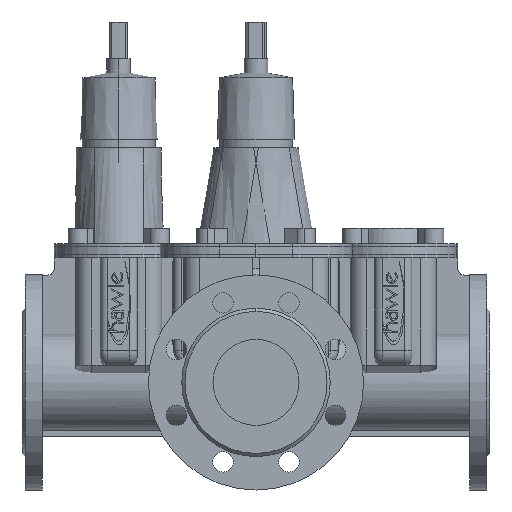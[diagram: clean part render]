
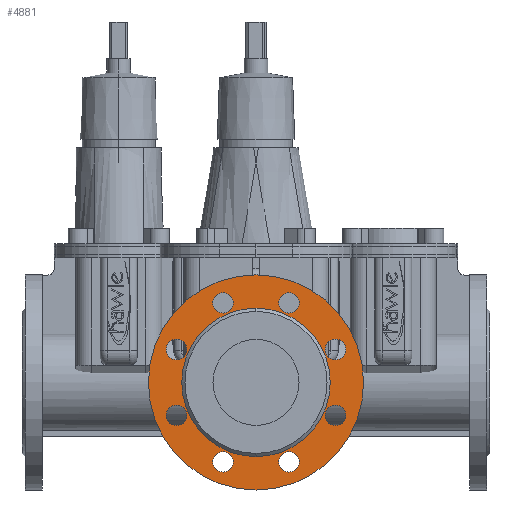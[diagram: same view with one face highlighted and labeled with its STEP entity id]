
A CAD part, left-side view. The second image highlights one B-rep face of the part: STEP entity #4881.
In plain terms, the highlighted planar face has unit normal (-1, 0, 0).
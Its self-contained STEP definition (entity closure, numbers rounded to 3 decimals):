
#4881=ADVANCED_FACE('',(#9717,#9718,#9719,#9720,#9721,#9722,#9723,#9724,#9725,#9726),#9727,.F.);
#9717=FACE_BOUND('',#16318,.T.);
#9718=FACE_BOUND('',#16319,.T.);
#9719=FACE_BOUND('',#16320,.T.);
#9720=FACE_BOUND('',#16321,.T.);
#9721=FACE_BOUND('',#16322,.T.);
#9722=FACE_BOUND('',#16323,.T.);
#9723=FACE_BOUND('',#16324,.T.);
#9724=FACE_BOUND('',#16325,.T.);
#9725=FACE_BOUND('',#16326,.T.);
#9726=FACE_OUTER_BOUND('',#16327,.T.);
#9727=PLANE('',#16328);
#16318=EDGE_LOOP('',(#25593,#25594));
#16319=EDGE_LOOP('',(#25595,#25596));
#16320=EDGE_LOOP('',(#25597,#25598));
#16321=EDGE_LOOP('',(#25599,#25600));
#16322=EDGE_LOOP('',(#25601,#25602));
#16323=EDGE_LOOP('',(#25603,#25604));
#16324=EDGE_LOOP('',(#25605,#25606));
#16325=EDGE_LOOP('',(#25607,#25608));
#16326=EDGE_LOOP('',(#25609,#25610));
#16327=EDGE_LOOP('',(#25611,#25612));
#16328=AXIS2_PLACEMENT_3D('',#25613,#25614,#25615);
#25593=ORIENTED_EDGE('',*,*,#36936,.T.);
#25594=ORIENTED_EDGE('',*,*,#36652,.T.);
#25595=ORIENTED_EDGE('',*,*,#36937,.T.);
#25596=ORIENTED_EDGE('',*,*,#34851,.T.);
#25597=ORIENTED_EDGE('',*,*,#34510,.T.);
#25598=ORIENTED_EDGE('',*,*,#36938,.T.);
#25599=ORIENTED_EDGE('',*,*,#34153,.T.);
#25600=ORIENTED_EDGE('',*,*,#36939,.T.);
#25601=ORIENTED_EDGE('',*,*,#35374,.T.);
#25602=ORIENTED_EDGE('',*,*,#36892,.T.);
#25603=ORIENTED_EDGE('',*,*,#36940,.T.);
#25604=ORIENTED_EDGE('',*,*,#34884,.T.);
#25605=ORIENTED_EDGE('',*,*,#36713,.T.);
#25606=ORIENTED_EDGE('',*,*,#36910,.T.);
#25607=ORIENTED_EDGE('',*,*,#35277,.T.);
#25608=ORIENTED_EDGE('',*,*,#36941,.T.);
#25609=ORIENTED_EDGE('',*,*,#35642,.T.);
#25610=ORIENTED_EDGE('',*,*,#35755,.T.);
#25611=ORIENTED_EDGE('',*,*,#36942,.F.);
#25612=ORIENTED_EDGE('',*,*,#36943,.F.);
#25613=CARTESIAN_POINT('',(3.0,0.0,0.));
#25614=DIRECTION('',(1.0,0.0,0.));
#25615=DIRECTION('',(0.,0.0,-1.0));
#34153=EDGE_CURVE('',#40010,#40014,#40016,.T.);
#34510=EDGE_CURVE('',#40636,#40640,#40642,.T.);
#34851=EDGE_CURVE('',#41224,#41222,#41225,.T.);
#34884=EDGE_CURVE('',#41280,#41278,#41281,.T.);
#35277=EDGE_CURVE('',#41932,#41936,#41938,.T.);
#35374=EDGE_CURVE('',#42093,#42097,#42099,.T.);
#35642=EDGE_CURVE('',#42526,#42530,#42532,.T.);
#35755=EDGE_CURVE('',#42530,#42526,#42707,.T.);
#36652=EDGE_CURVE('',#44060,#44058,#44061,.T.);
#36713=EDGE_CURVE('',#44150,#44154,#44156,.T.);
#36892=EDGE_CURVE('',#42097,#42093,#44404,.T.);
#36910=EDGE_CURVE('',#44154,#44150,#44428,.T.);
#36936=EDGE_CURVE('',#44058,#44060,#44465,.T.);
#36937=EDGE_CURVE('',#41222,#41224,#44466,.T.);
#36938=EDGE_CURVE('',#40640,#40636,#44467,.T.);
#36939=EDGE_CURVE('',#40014,#40010,#44468,.T.);
#36940=EDGE_CURVE('',#41278,#41280,#44469,.T.);
#36941=EDGE_CURVE('',#41936,#41932,#44470,.T.);
#36942=EDGE_CURVE('',#44471,#44472,#44473,.T.);
#36943=EDGE_CURVE('',#44472,#44471,#44474,.T.);
#40010=VERTEX_POINT('',#48252);
#40014=VERTEX_POINT('',#48257);
#40016=CIRCLE('',#48260,9.5);
#40636=VERTEX_POINT('',#49051);
#40640=VERTEX_POINT('',#49056);
#40642=CIRCLE('',#49059,9.5);
#41222=VERTEX_POINT('',#49806);
#41224=VERTEX_POINT('',#49809);
#41225=CIRCLE('',#49810,9.5);
#41278=VERTEX_POINT('',#49877);
#41280=VERTEX_POINT('',#49880);
#41281=CIRCLE('',#49881,9.5);
#41932=VERTEX_POINT('',#50728);
#41936=VERTEX_POINT('',#50733);
#41938=CIRCLE('',#50736,9.5);
#42093=VERTEX_POINT('',#50951);
#42097=VERTEX_POINT('',#50956);
#42099=CIRCLE('',#50959,9.5);
#42526=VERTEX_POINT('',#51512);
#42530=VERTEX_POINT('',#51517);
#42532=CIRCLE('',#51520,40.0);
#42707=CIRCLE('',#51753,40.0);
#44058=VERTEX_POINT('',#53498);
#44060=VERTEX_POINT('',#53501);
#44061=CIRCLE('',#53502,9.5);
#44150=VERTEX_POINT('',#53613);
#44154=VERTEX_POINT('',#53618);
#44156=CIRCLE('',#53621,9.5);
#44404=CIRCLE('',#53944,9.5);
#44428=CIRCLE('',#53972,9.5);
#44465=CIRCLE('',#54019,9.5);
#44466=CIRCLE('',#54020,9.5);
#44467=CIRCLE('',#54021,9.5);
#44468=CIRCLE('',#54022,9.5);
#44469=CIRCLE('',#54023,9.5);
#44470=CIRCLE('',#54024,9.5);
#44471=VERTEX_POINT('',#54025);
#44472=VERTEX_POINT('',#54026);
#44473=CIRCLE('',#54027,100.0);
#44474=CIRCLE('',#54028,100.0);
#48252=CARTESIAN_POINT('',(3.0,-30.615,-83.41));
#48257=CARTESIAN_POINT('',(3.0,-30.615,-64.41));
#48260=AXIS2_PLACEMENT_3D('',#58187,#58188,#58189);
#49051=CARTESIAN_POINT('',(3.0,30.615,-83.41));
#49056=CARTESIAN_POINT('',(3.0,30.615,-64.41));
#49059=AXIS2_PLACEMENT_3D('',#58699,#58700,#58701);
#49806=CARTESIAN_POINT('',(3.0,73.91,-40.115));
#49809=CARTESIAN_POINT('',(3.0,73.91,-21.115));
#49810=AXIS2_PLACEMENT_3D('',#59182,#59183,#59184);
#49877=CARTESIAN_POINT('',(3.0,-73.91,21.115));
#49880=CARTESIAN_POINT('',(3.0,-73.91,40.115));
#49881=AXIS2_PLACEMENT_3D('',#59230,#59231,#59232);
#50728=CARTESIAN_POINT('',(3.0,30.615,64.41));
#50733=CARTESIAN_POINT('',(3.,30.615,83.41));
#50736=AXIS2_PLACEMENT_3D('',#59764,#59765,#59766);
#50951=CARTESIAN_POINT('',(3.0,-73.91,-40.115));
#50956=CARTESIAN_POINT('',(3.0,-73.91,-21.115));
#50959=AXIS2_PLACEMENT_3D('',#59865,#59866,#59867);
#51512=CARTESIAN_POINT('',(3.0,0.0,-40.0));
#51517=CARTESIAN_POINT('',(3.0,0.,40.0));
#51520=AXIS2_PLACEMENT_3D('',#60215,#60216,#60217);
#51753=AXIS2_PLACEMENT_3D('',#60354,#60355,#60356);
#53498=CARTESIAN_POINT('',(3.0,73.91,21.115));
#53501=CARTESIAN_POINT('',(3.0,73.91,40.115));
#53502=AXIS2_PLACEMENT_3D('',#61583,#61584,#61585);
#53613=CARTESIAN_POINT('',(3.0,-30.615,64.41));
#53618=CARTESIAN_POINT('',(3.,-30.615,83.41));
#53621=AXIS2_PLACEMENT_3D('',#61670,#61671,#61672);
#53944=AXIS2_PLACEMENT_3D('',#61886,#61887,#61888);
#53972=AXIS2_PLACEMENT_3D('',#61923,#61924,#61925);
#54019=AXIS2_PLACEMENT_3D('',#61957,#61958,#61959);
#54020=AXIS2_PLACEMENT_3D('',#61960,#61961,#61962);
#54021=AXIS2_PLACEMENT_3D('',#61963,#61964,#61965);
#54022=AXIS2_PLACEMENT_3D('',#61966,#61967,#61968);
#54023=AXIS2_PLACEMENT_3D('',#61969,#61970,#61971);
#54024=AXIS2_PLACEMENT_3D('',#61972,#61973,#61974);
#54025=CARTESIAN_POINT('',(3.,0.0,-100.0));
#54026=CARTESIAN_POINT('',(3.,0.,100.0));
#54027=AXIS2_PLACEMENT_3D('',#61975,#61976,#61977);
#54028=AXIS2_PLACEMENT_3D('',#61978,#61979,#61980);
#58187=CARTESIAN_POINT('',(3.0,-30.615,-73.91));
#58188=DIRECTION('',(1.0,0.0,0.));
#58189=DIRECTION('',(0.,0.0,-1.0));
#58699=CARTESIAN_POINT('',(3.0,30.615,-73.91));
#58700=DIRECTION('',(1.0,0.0,0.));
#58701=DIRECTION('',(0.,0.0,-1.0));
#59182=CARTESIAN_POINT('',(3.0,73.91,-30.615));
#59183=DIRECTION('',(1.0,0.0,0.));
#59184=DIRECTION('',(0.,0.0,-1.0));
#59230=CARTESIAN_POINT('',(3.0,-73.91,30.615));
#59231=DIRECTION('',(1.0,0.0,0.));
#59232=DIRECTION('',(0.,0.0,-1.0));
#59764=CARTESIAN_POINT('',(3.0,30.615,73.91));
#59765=DIRECTION('',(1.0,0.0,0.));
#59766=DIRECTION('',(0.,0.0,-1.0));
#59865=CARTESIAN_POINT('',(3.0,-73.91,-30.615));
#59866=DIRECTION('',(1.0,0.0,0.));
#59867=DIRECTION('',(0.,0.0,-1.0));
#60215=CARTESIAN_POINT('',(3.0,0.0,0.));
#60216=DIRECTION('',(1.0,0.0,0.));
#60217=DIRECTION('',(0.,0.0,-1.0));
#60354=CARTESIAN_POINT('',(3.0,0.0,0.));
#60355=DIRECTION('',(1.0,0.0,0.));
#60356=DIRECTION('',(0.,0.0,-1.0));
#61583=CARTESIAN_POINT('',(3.0,73.91,30.615));
#61584=DIRECTION('',(1.0,0.0,0.));
#61585=DIRECTION('',(0.,0.0,-1.0));
#61670=CARTESIAN_POINT('',(3.0,-30.615,73.91));
#61671=DIRECTION('',(1.0,0.0,0.));
#61672=DIRECTION('',(0.,0.0,-1.0));
#61886=CARTESIAN_POINT('',(3.0,-73.91,-30.615));
#61887=DIRECTION('',(1.0,0.0,0.));
#61888=DIRECTION('',(0.,0.0,-1.0));
#61923=CARTESIAN_POINT('',(3.0,-30.615,73.91));
#61924=DIRECTION('',(1.0,0.0,0.));
#61925=DIRECTION('',(0.,0.0,-1.0));
#61957=CARTESIAN_POINT('',(3.0,73.91,30.615));
#61958=DIRECTION('',(1.0,0.0,0.));
#61959=DIRECTION('',(0.,0.0,-1.0));
#61960=CARTESIAN_POINT('',(3.0,73.91,-30.615));
#61961=DIRECTION('',(1.0,0.0,0.));
#61962=DIRECTION('',(0.,0.0,-1.0));
#61963=CARTESIAN_POINT('',(3.0,30.615,-73.91));
#61964=DIRECTION('',(1.0,0.0,0.));
#61965=DIRECTION('',(0.,0.0,-1.0));
#61966=CARTESIAN_POINT('',(3.0,-30.615,-73.91));
#61967=DIRECTION('',(1.0,0.0,0.));
#61968=DIRECTION('',(0.,0.0,-1.0));
#61969=CARTESIAN_POINT('',(3.0,-73.91,30.615));
#61970=DIRECTION('',(1.0,0.0,0.));
#61971=DIRECTION('',(0.,0.0,-1.0));
#61972=CARTESIAN_POINT('',(3.0,30.615,73.91));
#61973=DIRECTION('',(1.0,0.0,0.));
#61974=DIRECTION('',(0.,0.0,-1.0));
#61975=CARTESIAN_POINT('',(3.0,0.0,0.));
#61976=DIRECTION('',(1.0,0.0,0.));
#61977=DIRECTION('',(0.,0.0,-1.0));
#61978=CARTESIAN_POINT('',(3.0,0.0,0.));
#61979=DIRECTION('',(1.0,0.0,0.));
#61980=DIRECTION('',(0.,0.0,-1.0));
